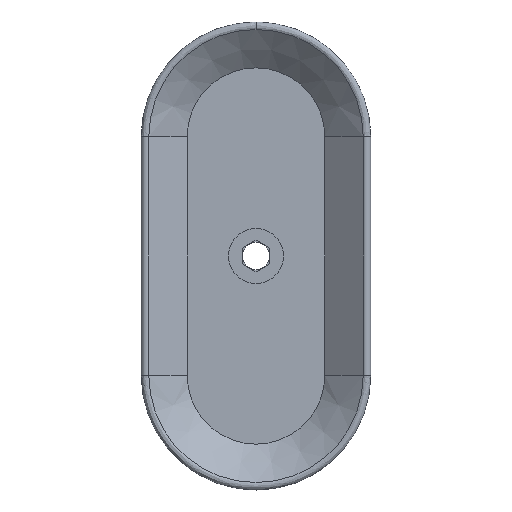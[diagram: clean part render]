
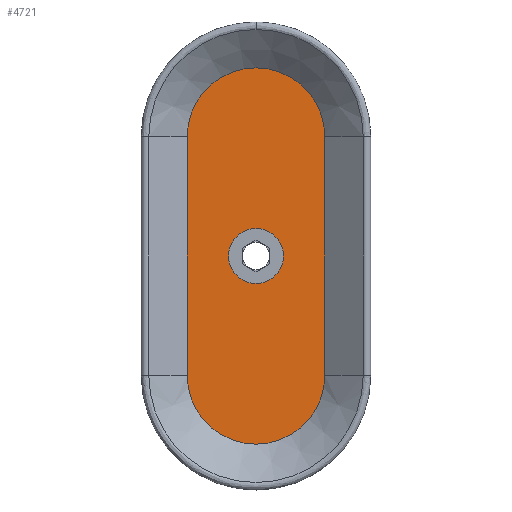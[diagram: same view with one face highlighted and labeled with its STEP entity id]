
A CAD part, front view. The second image highlights one B-rep face of the part: STEP entity #4721.
In plain terms, the highlighted planar face has unit normal (0, -1, 0).
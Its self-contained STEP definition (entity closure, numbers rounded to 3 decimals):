
#4 = VERTEX_POINT ( 'NONE', #3051 ) ;
#59 = EDGE_LOOP ( 'NONE', ( #1882, #2551, #1675, #4524, #3320 ) ) ;
#128 = CARTESIAN_POINT ( 'NONE',  ( 0., 5., 41. ) ) ;
#240 = AXIS2_PLACEMENT_3D ( 'NONE', #1717, #3909, #6776 ) ;
#357 = CARTESIAN_POINT ( 'NONE',  ( 0., 5., 26. ) ) ;
#358 = DIRECTION ( 'NONE',  ( 0., 0., 1. ) ) ;
#667 = ORIENTED_EDGE ( 'NONE', *, *, #3511, .T. ) ;
#696 = CIRCLE ( 'NONE', #6662, 6. ) ;
#762 = EDGE_CURVE ( 'NONE', #4705, #5290, #5906, .T. ) ;
#873 = AXIS2_PLACEMENT_3D ( 'NONE', #4644, #1280, #5187 ) ;
#975 = EDGE_CURVE ( 'NONE', #6748, #4705, #4097, .T. ) ;
#1246 = CARTESIAN_POINT ( 'NONE',  ( 0., 5., -6. ) ) ;
#1253 = PLANE ( 'NONE',  #873 ) ;
#1280 = DIRECTION ( 'NONE',  ( 0., -1., 0. ) ) ;
#1479 = VERTEX_POINT ( 'NONE', #2026 ) ;
#1575 = FACE_BOUND ( 'NONE', #6527, .T. ) ;
#1675 = ORIENTED_EDGE ( 'NONE', *, *, #762, .F. ) ;
#1717 = CARTESIAN_POINT ( 'NONE',  ( 0., 5., 26. ) ) ;
#1749 = CIRCLE ( 'NONE', #3528, 6. ) ;
#1803 = DIRECTION ( 'NONE',  ( 0., 0., 1. ) ) ;
#1882 = ORIENTED_EDGE ( 'NONE', *, *, #5351, .F. ) ;
#1960 = CARTESIAN_POINT ( 'NONE',  ( 15., 5., 26. ) ) ;
#2026 = CARTESIAN_POINT ( 'NONE',  ( 0., 5., 6. ) ) ;
#2141 = EDGE_CURVE ( 'NONE', #4, #5290, #2280, .T. ) ;
#2280 = LINE ( 'NONE', #5149, #5245 ) ;
#2476 = AXIS2_PLACEMENT_3D ( 'NONE', #6509, #3182, #7081 ) ;
#2546 = VERTEX_POINT ( 'NONE', #1246 ) ;
#2551 = ORIENTED_EDGE ( 'NONE', *, *, #2141, .T. ) ;
#2832 = CARTESIAN_POINT ( 'NONE',  ( 0., 5., 0. ) ) ;
#3051 = CARTESIAN_POINT ( 'NONE',  ( 15., 5., -26. ) ) ;
#3089 = ORIENTED_EDGE ( 'NONE', *, *, #3095, .T. ) ;
#3095 = EDGE_CURVE ( 'NONE', #1479, #2546, #696, .T. ) ;
#3182 = DIRECTION ( 'NONE',  ( 0., 1., 0. ) ) ;
#3320 = ORIENTED_EDGE ( 'NONE', *, *, #6199, .T. ) ;
#3385 = DIRECTION ( 'NONE',  ( 0., 0., 1. ) ) ;
#3456 = DIRECTION ( 'NONE',  ( 0., 0., 1. ) ) ;
#3511 = EDGE_CURVE ( 'NONE', #2546, #1479, #1749, .T. ) ;
#3528 = AXIS2_PLACEMENT_3D ( 'NONE', #7077, #3722, #358 ) ;
#3722 = DIRECTION ( 'NONE',  ( 0., 1., 0. ) ) ;
#3909 = DIRECTION ( 'NONE',  ( 0., 1., 0. ) ) ;
#3928 = CIRCLE ( 'NONE', #2476, 15. ) ;
#4097 = CIRCLE ( 'NONE', #4877, 15. ) ;
#4524 = ORIENTED_EDGE ( 'NONE', *, *, #975, .F. ) ;
#4557 = FACE_OUTER_BOUND ( 'NONE', #59, .T. ) ;
#4644 = CARTESIAN_POINT ( 'NONE',  ( 0., 5., 26. ) ) ;
#4705 = VERTEX_POINT ( 'NONE', #128 ) ;
#4721 = ADVANCED_FACE ( 'NONE', ( #4557, #1575 ), #1253, .T. ) ;
#4761 = VECTOR ( 'NONE', #7099, 1000. ) ;
#4877 = AXIS2_PLACEMENT_3D ( 'NONE', #357, #5875, #3456 ) ;
#5149 = CARTESIAN_POINT ( 'NONE',  ( 15., 5., -26. ) ) ;
#5187 = DIRECTION ( 'NONE',  ( 0., 0., -1. ) ) ;
#5245 = VECTOR ( 'NONE', #1803, 1000. ) ;
#5290 = VERTEX_POINT ( 'NONE', #1960 ) ;
#5351 = EDGE_CURVE ( 'NONE', #4, #6645, #3928, .T. ) ;
#5384 = CARTESIAN_POINT ( 'NONE',  ( -15., 5., 26. ) ) ;
#5675 = CARTESIAN_POINT ( 'NONE',  ( -15., 5., -26. ) ) ;
#5875 = DIRECTION ( 'NONE',  ( 0., 1., 0. ) ) ;
#5906 = CIRCLE ( 'NONE', #240, 15. ) ;
#6199 = EDGE_CURVE ( 'NONE', #6748, #6645, #6243, .T. ) ;
#6243 = LINE ( 'NONE', #5384, #4761 ) ;
#6272 = CARTESIAN_POINT ( 'NONE',  ( -15., 5., 26. ) ) ;
#6509 = CARTESIAN_POINT ( 'NONE',  ( 0., 5., -26. ) ) ;
#6527 = EDGE_LOOP ( 'NONE', ( #3089, #667 ) ) ;
#6645 = VERTEX_POINT ( 'NONE', #5675 ) ;
#6662 = AXIS2_PLACEMENT_3D ( 'NONE', #2832, #6733, #3385 ) ;
#6733 = DIRECTION ( 'NONE',  ( 0., 1., 0. ) ) ;
#6748 = VERTEX_POINT ( 'NONE', #6272 ) ;
#6776 = DIRECTION ( 'NONE',  ( 0., 0., 1. ) ) ;
#7077 = CARTESIAN_POINT ( 'NONE',  ( 0., 5., 0. ) ) ;
#7081 = DIRECTION ( 'NONE',  ( 0., 0., 1. ) ) ;
#7099 = DIRECTION ( 'NONE',  ( 0., 0., -1. ) ) ;
